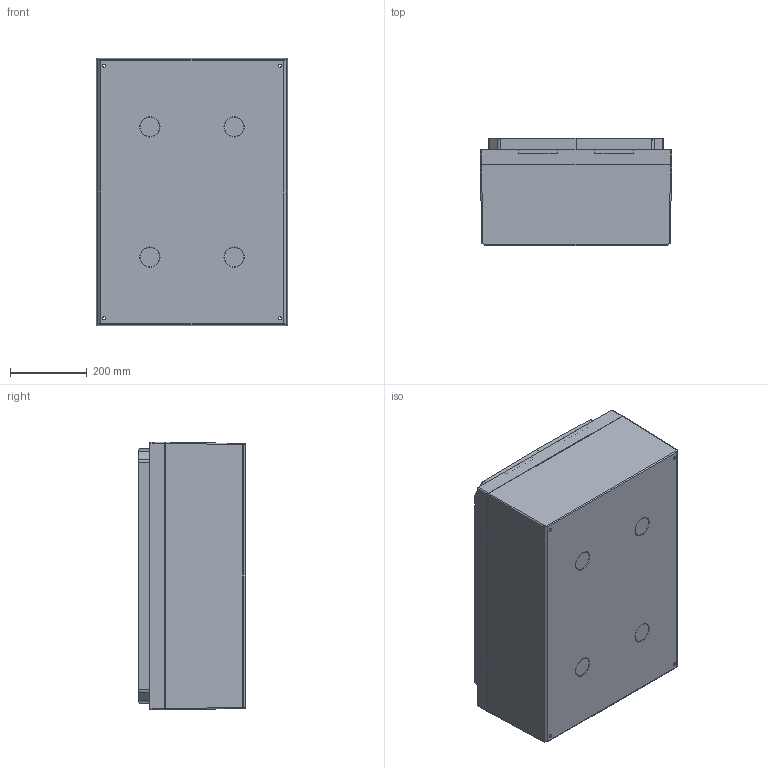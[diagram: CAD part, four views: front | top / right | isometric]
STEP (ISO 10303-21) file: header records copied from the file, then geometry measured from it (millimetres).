
FILE_DESCRIPTION (( 'STEP AP214' ), '1' );
FILE_NAME ('BXPFAG700500300-P01', '2013-07-24T07:09:11', ( '' ), ( '' ), 'SwSTEP 2.0', 'SolidWorks 2012', '' );
FILE_SCHEMA (( 'AUTOMOTIVE_DESIGN' ));
Length unit declared in the file: millimetre
Products named in the file (1): BXPFAG700500300-P01
Bounding box: 500 x 280 x 700 mm (x, y, z)
Volume: 5511784.2 mm3; surface area: 2538908.8 mm2
Topology: 1 solids, 1 shells, 1341 faces, 3470 edges, 2284 vertices
Faces by surface type: plane 973, cylinder 268, cone 80, bspline 20
Entity records: 55741 total; most frequent: CARTESIAN_POINT 8412, ORIENTED_EDGE 6924, DIRECTION 6394, EDGE_CURVE 3462, LINE 2662, VECTOR 2662, VERTEX_POINT 2284, AXIS2_PLACEMENT_3D 1866
